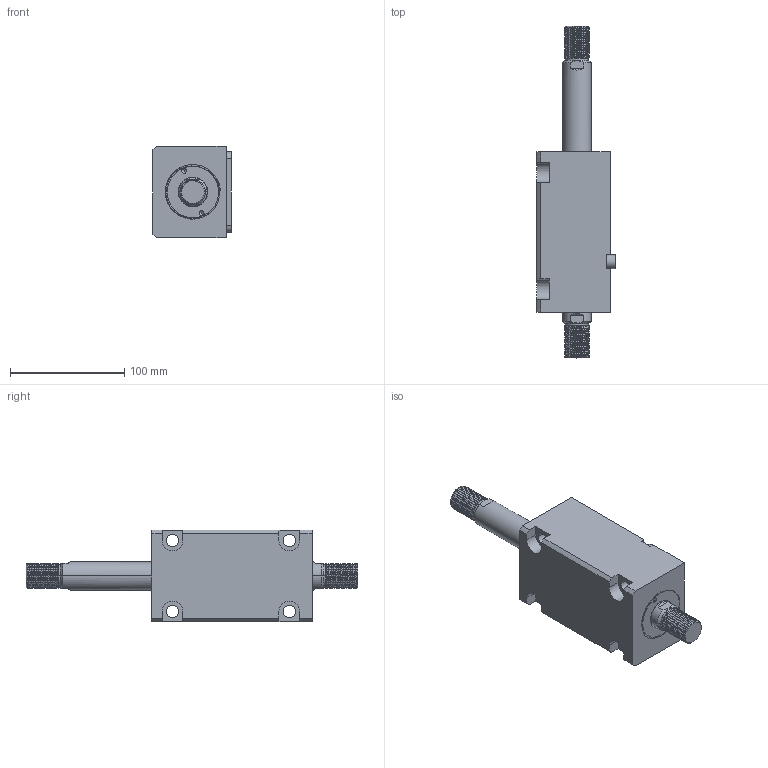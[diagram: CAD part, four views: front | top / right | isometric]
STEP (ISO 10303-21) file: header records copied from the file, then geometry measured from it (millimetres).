
FILE_DESCRIPTION (( 'STEP AP214' ), '1' );
FILE_NAME ('chtb-lwm40x70w_asm.STEP', '2018-05-31T00:47:43', ( 'Windows' ), ( 'Microsoft' ), 'SwSTEP 2.0', 'SolidWorks 2015', '' );
FILE_SCHEMA (( 'AUTOMOTIVE_DESIGN' ));
Length unit declared in the file: millimetre
Products named in the file (5): CHTB-SW40X70NHSG; CHTB-SD40QG; CHTB-LWM40X70NBT; CHTB-LA40PJ; chtb-lwm40x70w_asm
Assembly tree (4 placements, depth 2):
  chtb-lwm40x70w_asm
    CHTB-LA40PJ
    CHTB-LWM40X70NBT
    CHTB-SD40QG
    CHTB-SW40X70NHSG
Bounding box: 68.5 x 290 x 80 mm (x, y, z)
Volume: 694474.7 mm3; surface area: 116204.9 mm2
Topology: 4 solids, 4 shells, 252 faces, 699 edges, 465 vertices
Faces by surface type: cylinder 152, plane 57, bspline 18, cone 13, torus 12
Entity records: 17373 total; most frequent: CARTESIAN_POINT 11260, ORIENTED_EDGE 1386, DIRECTION 1092, EDGE_CURVE 693, VERTEX_POINT 465, AXIS2_PLACEMENT_3D 419, EDGE_LOOP 284, LINE 254
